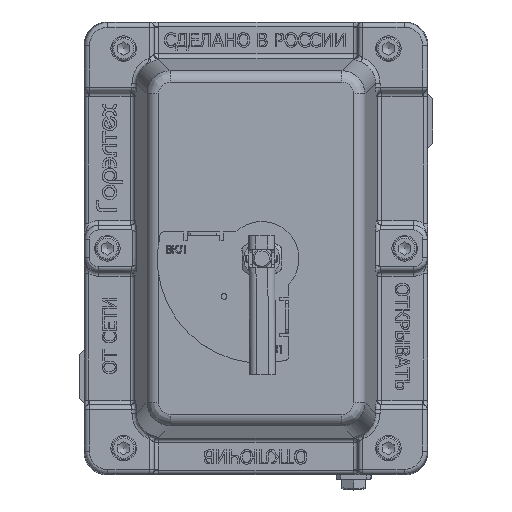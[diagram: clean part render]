
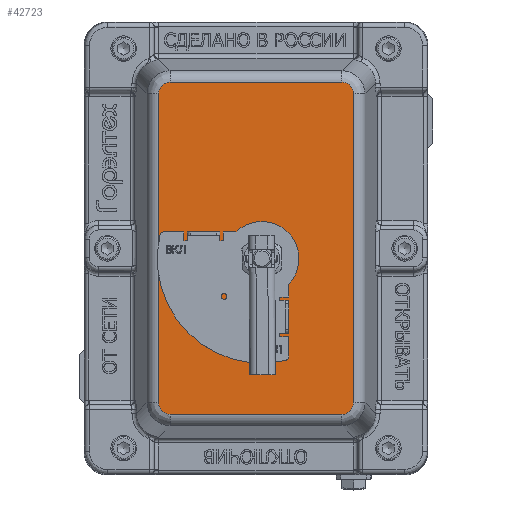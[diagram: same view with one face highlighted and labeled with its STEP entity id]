
A CAD part, top view. The second image highlights one B-rep face of the part: STEP entity #42723.
In plain terms, the highlighted planar face has unit normal (0, 0, 1).
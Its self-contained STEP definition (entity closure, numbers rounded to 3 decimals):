
#22869=CARTESIAN_POINT('',(-5.,-4.5,54.));
#22870=VERTEX_POINT('',#22869);
#22871=CARTESIAN_POINT('',(2.5,-4.5,54.));
#22872=DIRECTION('',(0.0,0.0,-1.0));
#22873=DIRECTION('',(-1.0,0.0,0.0));
#22874=AXIS2_PLACEMENT_3D('',#22871,#22872,#22873);
#22875=CIRCLE('',#22874,7.5);
#22876=EDGE_CURVE('',#22870,#22870,#22875,.T.);
#42645=CARTESIAN_POINT('',(0.,0.,54.));
#42646=DIRECTION('',(0.0,0.0,1.0));
#42647=DIRECTION('',(-1.0,0.0,0.0));
#42648=AXIS2_PLACEMENT_3D('',#42645,#42646,#42647);
#42649=PLANE('',#42648);
#42650=CARTESIAN_POINT('',(41.97,66.518,54.));
#42651=VERTEX_POINT('',#42650);
#42652=CARTESIAN_POINT('',(41.97,-66.518,54.));
#42653=VERTEX_POINT('',#42652);
#42654=CARTESIAN_POINT('',(41.97,66.518,54.));
#42655=DIRECTION('',(0.0,-1.0,0.0));
#42656=VECTOR('',#42655,133.037);
#42657=LINE('',#42654,#42656);
#42658=EDGE_CURVE('',#42651,#42653,#42657,.T.);
#42659=ORIENTED_EDGE('',*,*,#42658,.F.);
#42660=CARTESIAN_POINT('',(37.018,71.47,54.));
#42661=VERTEX_POINT('',#42660);
#42662=CARTESIAN_POINT('',(36.921,66.421,54.));
#42663=DIRECTION('',(0.,0.,-1.0));
#42664=DIRECTION('',(0.707,0.707,0.));
#42665=AXIS2_PLACEMENT_3D('',#42662,#42663,#42664);
#42666=ELLIPSE('',#42665,5.098,5.0);
#42667=EDGE_CURVE('',#42661,#42651,#42666,.T.);
#42668=ORIENTED_EDGE('',*,*,#42667,.F.);
#42669=CARTESIAN_POINT('',(-37.018,71.47,54.));
#42670=VERTEX_POINT('',#42669);
#42671=CARTESIAN_POINT('',(-37.018,71.47,54.));
#42672=DIRECTION('',(1.0,0.0,0.0));
#42673=VECTOR('',#42672,74.037);
#42674=LINE('',#42671,#42673);
#42675=EDGE_CURVE('',#42670,#42661,#42674,.T.);
#42676=ORIENTED_EDGE('',*,*,#42675,.F.);
#42677=CARTESIAN_POINT('',(-41.97,66.518,54.));
#42678=VERTEX_POINT('',#42677);
#42679=CARTESIAN_POINT('',(-36.921,66.421,54.));
#42680=DIRECTION('',(0.,0.,-1.0));
#42681=DIRECTION('',(-0.707,0.707,0.));
#42682=AXIS2_PLACEMENT_3D('',#42679,#42680,#42681);
#42683=ELLIPSE('',#42682,5.098,5.);
#42684=EDGE_CURVE('',#42678,#42670,#42683,.T.);
#42685=ORIENTED_EDGE('',*,*,#42684,.F.);
#42686=CARTESIAN_POINT('',(-41.97,-66.518,54.));
#42687=VERTEX_POINT('',#42686);
#42688=CARTESIAN_POINT('',(-41.97,-66.518,54.));
#42689=DIRECTION('',(0.0,1.0,0.0));
#42690=VECTOR('',#42689,133.037);
#42691=LINE('',#42688,#42690);
#42692=EDGE_CURVE('',#42687,#42678,#42691,.T.);
#42693=ORIENTED_EDGE('',*,*,#42692,.F.);
#42694=CARTESIAN_POINT('',(-37.018,-71.47,54.));
#42695=VERTEX_POINT('',#42694);
#42696=CARTESIAN_POINT('',(-36.921,-66.421,54.));
#42697=DIRECTION('',(0.,0.,-1.0));
#42698=DIRECTION('',(-0.707,-0.707,0.));
#42699=AXIS2_PLACEMENT_3D('',#42696,#42697,#42698);
#42700=ELLIPSE('',#42699,5.098,5.);
#42701=EDGE_CURVE('',#42695,#42687,#42700,.T.);
#42702=ORIENTED_EDGE('',*,*,#42701,.F.);
#42703=CARTESIAN_POINT('',(37.018,-71.47,54.));
#42704=VERTEX_POINT('',#42703);
#42705=CARTESIAN_POINT('',(37.018,-71.47,54.));
#42706=DIRECTION('',(-1.0,0.0,0.0));
#42707=VECTOR('',#42706,74.037);
#42708=LINE('',#42705,#42707);
#42709=EDGE_CURVE('',#42704,#42695,#42708,.T.);
#42710=ORIENTED_EDGE('',*,*,#42709,.F.);
#42711=CARTESIAN_POINT('',(36.921,-66.421,54.));
#42712=DIRECTION('',(0.,0.,-1.0));
#42713=DIRECTION('',(0.707,-0.707,0.));
#42714=AXIS2_PLACEMENT_3D('',#42711,#42712,#42713);
#42715=ELLIPSE('',#42714,5.098,5.0);
#42716=EDGE_CURVE('',#42653,#42704,#42715,.T.);
#42717=ORIENTED_EDGE('',*,*,#42716,.F.);
#42718=EDGE_LOOP('',(#42659,#42668,#42676,#42685,#42693,#42702,#42710,#42717));
#42719=FACE_OUTER_BOUND('',#42718,.T.);
#42720=ORIENTED_EDGE('',*,*,#22876,.T.);
#42721=EDGE_LOOP('',(#42720));
#42722=FACE_BOUND('',#42721,.T.);
#42723=ADVANCED_FACE('',(#42719,#42722),#42649,.T.);
